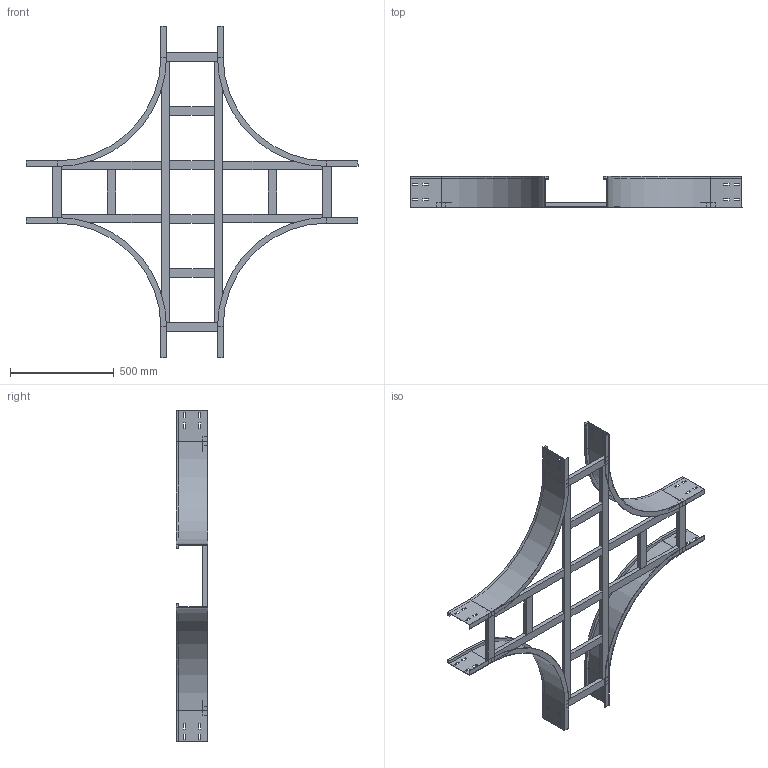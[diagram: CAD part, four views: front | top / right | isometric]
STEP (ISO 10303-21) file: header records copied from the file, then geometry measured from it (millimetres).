
FILE_DESCRIPTION (( 'STEP AP214' ), '1' );
FILE_NAME ('17J5F300.step', '2025-02-21T16:28:37', ( '' ), ( '' ), 'SwSTEP 2.0', 'SolidWorks 2023', '' );
FILE_SCHEMA (( 'AUTOMOTIVE_DESIGN' ));
Length unit declared in the file: millimetre
Products named in the file (7): TRAVERSINO_COPPIA_300; TRAVERSINO_300; 17J5F300; TRAVERSINO_INTERMEDIO_X_R500+300; LONGH.INTERNO 90°_H150_R500; TRAVERSINO_VERT_R500; TRAVERSINO_LONG._R500+300
Assembly tree (20 placements, depth 2):
  17J5F300
    LONGH.INTERNO 90°_H150_R500  x4
    TRAVERSINO_300  x4
    TRAVERSINO_LONG._R500+300  x2
    TRAVERSINO_INTERMEDIO_X_R500+300  x4
    TRAVERSINO_VERT_R500  x4
    TRAVERSINO_COPPIA_300  x2
Bounding box: 1600 x 150 x 1600 mm (x, y, z)
Volume: 7962447.2 mm3; surface area: 2543379.3 mm2
Topology: 20 solids, 20 shells, 328 faces, 800 edges, 512 vertices
Faces by surface type: plane 312, cylinder 16
Entity records: 2860 total; most frequent: CARTESIAN_POINT 459, DIRECTION 442, ORIENTED_EDGE 424, EDGE_CURVE 212, LINE 204, VECTOR 204, VERTEX_POINT 136, AXIS2_PLACEMENT_3D 119
